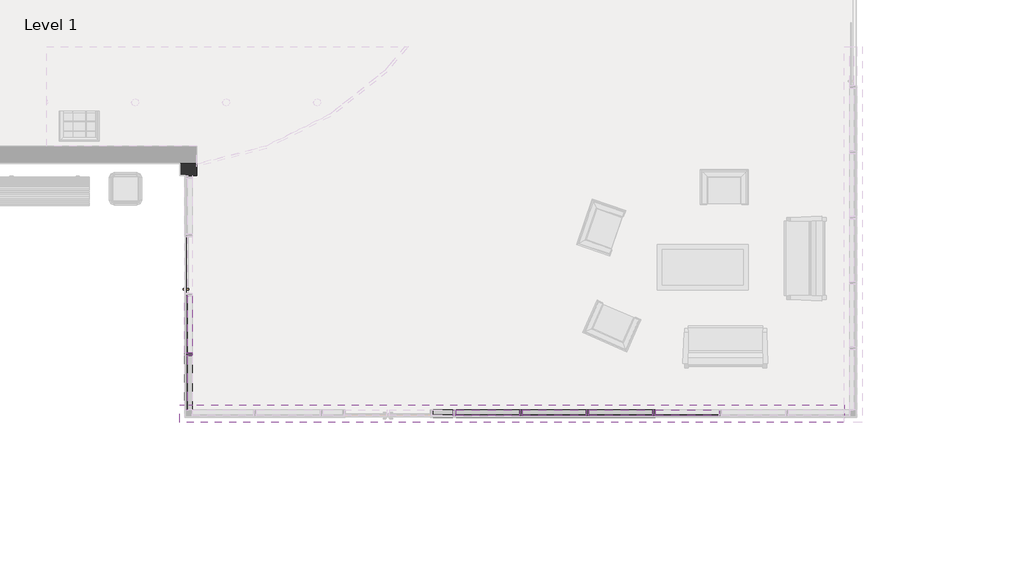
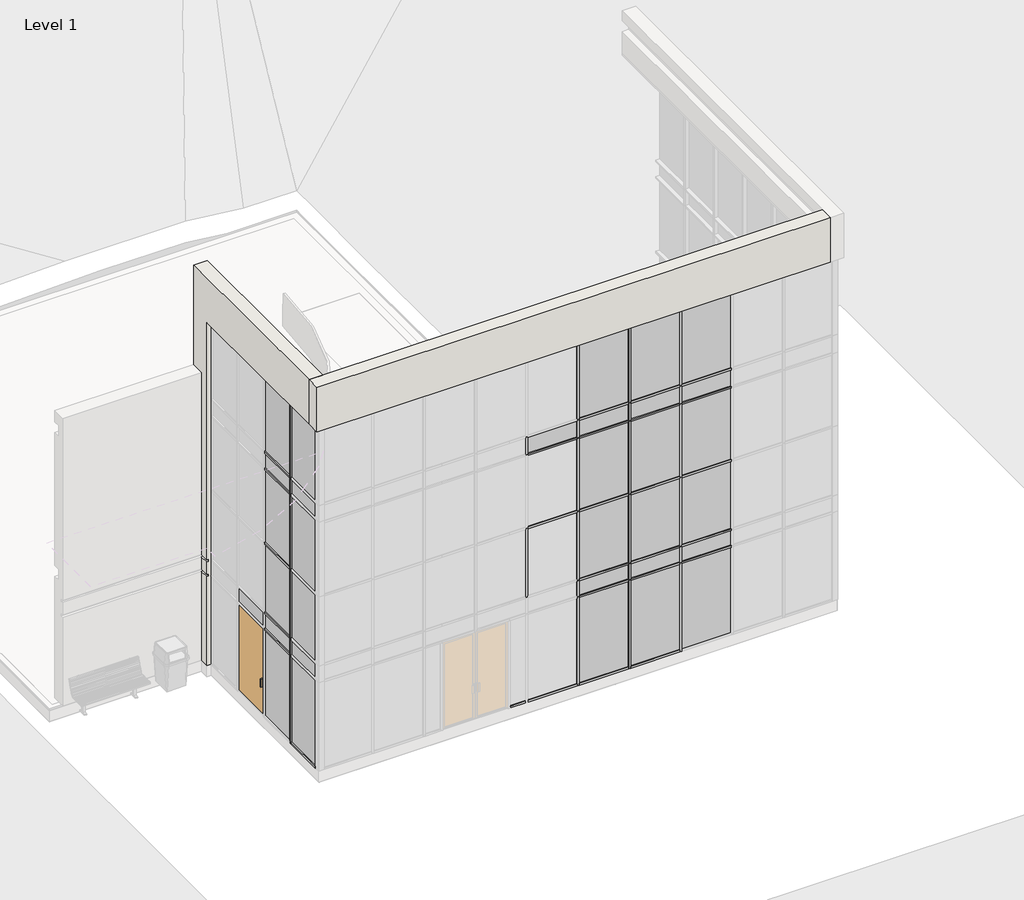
# One storey, part 2 of 6: 57 members, 32 plates, 2 walls, 1 door.
"""IFC4 building model written with IfcOpenShell, lengths in millimetres."""

from ifc_helpers import new_model, si_unit, frame, origin, place, context, project, spatial, circle_curve, faceted_brep, transform, mapped, element, save
from ifc_brep_helpers import plane_surface, cylinder_surface, advanced_brep
from components import curtain_wall_sgl_glass_curtain_wall_sgl_glass_863aa467, rectangular_mullion_50_x_150mm_9277cc62, rectangular_mullion_50_x_150mm_169d2d5c, rectangular_mullion_50_x_150mm_a98d9a75, rectangular_mullion_50_x_150mm_e5e1dcca, rectangular_mullion_50_x_150mm_47c0eb49, rectangular_mullion_50_x_150mm_2677f012, rectangular_mullion_50_x_150mm_55a91b40, rectangular_mullion_50_x_150mm_f9e96e8e, rectangular_mullion_50_x_150mm_1c0c8fcc, rectangular_mullion_50_x_150mm_5d9cdbe7, rectangular_mullion_50_x_150mm_6df5bc23, rectangular_mullion_50_x_150mm_c664ab49, rectangular_mullion_50_x_150mm_22f77a7a, system_panel_glazed_ba6276c6, system_panel_glazed_2755e160, system_panel_glazed_d3095f7c, system_panel_glazed_9a941065, system_panel_glazed_23c7b05c, system_panel_glazed_fb6efac8, system_panel_glazed_b5f236a0, system_panel_glazed_aa2b9898, system_panel_glazed_3706a5cf, system_panel_glazed_fdcf631f, system_panel_glazed_b287760b, system_panel_glazed_29643dd6, system_panel_glazed_af9e971b, system_panel_glazed_48c6fd0a, system_panel_glazed_b5705625, system_panel_glazed_869bd01b

model = new_model("IFC4")

# Units and contexts
model_context = context("Model", 3, world=origin())
ifc_project = project(units=[si_unit("LENGTHUNIT", "METRE", prefix="MILLI")], contexts=[model_context])

# Site, building, storey
site = spatial("IfcSite", under=ifc_project)
building = spatial("IfcBuilding", under=site)
storey = spatial("IfcBuildingStorey", under=building, Name="Level 1", Elevation=45720.0)

# Door
placement = place(None, origin())
curtain_wall_sgl_glass_curtain_wall_sgl_glass_shape = curtain_wall_sgl_glass_curtain_wall_sgl_glass_863aa467(model_context)
element("IfcDoor", 1, ObjectType="Curtain Wall Sgl Glass : Curtain Wall Sgl Glass", at=placement, inside=storey, context=model_context, shape_type="MappedRepresentation", body=[
    mapped(curtain_wall_sgl_glass_curtain_wall_sgl_glass_shape, transform((-10125.6188072, -5116.8998862, 45720.0), x_axis=(0.0, 1.0, 0.0), y_axis=(-1.0, 0.0, 0.0), z_axis=(0.0, 0.0, 1.0))),
])

# Members
rectangular_mullion_50_x_150mm_shape = rectangular_mullion_50_x_150mm_9277cc62(model_context)
element("IfcMember", 2, ObjectType="Rectangular Mullion : 50 x 150mm", at=placement, inside=storey, context=model_context, shape_type="MappedRepresentation", body=[
    mapped(rectangular_mullion_50_x_150mm_shape, transform((-10125.6188072, -6887.3623862, 55168.8), x_axis=(0.0, 0.0, 1.0), y_axis=(-1.0, 0.0, 0.0), z_axis=(0.0, -1.0, 0.0))),
])
rectangular_mullion_50_x_150mm_2_shape = rectangular_mullion_50_x_150mm_169d2d5c(model_context)
element("IfcMember", 3, ObjectType="Rectangular Mullion : 50 x 150mm", at=placement, inside=storey, context=model_context, shape_type="MappedRepresentation", body=[
    mapped(rectangular_mullion_50_x_150mm_2_shape, transform((-10125.6188072, -6887.3623862, 48158.4), x_axis=(0.0, 0.0, 1.0), y_axis=(-1.0, 0.0, 0.0), z_axis=(0.0, -1.0, 0.0))),
])
element("IfcMember", 4, ObjectType="Rectangular Mullion : 50 x 150mm", at=placement, inside=storey, context=model_context, shape_type="MappedRepresentation", body=[
    mapped(rectangular_mullion_50_x_150mm_2_shape, transform((-10125.6188072, -6887.3623862, 50520.0), x_axis=(0.0, 0.0, 1.0), y_axis=(-1.0, 0.0, 0.0), z_axis=(0.0, -1.0, 0.0))),
])
element("IfcMember", 5, ObjectType="Rectangular Mullion : 50 x 150mm", at=placement, inside=storey, context=model_context, shape_type="MappedRepresentation", body=[
    mapped(rectangular_mullion_50_x_150mm_2_shape, transform((-10125.6188072, -6887.3623862, 53035.2), x_axis=(0.0, 0.0, 1.0), y_axis=(-1.0, 0.0, 0.0), z_axis=(0.0, -1.0, 0.0))),
])
element("IfcMember", 6, ObjectType="Rectangular Mullion : 50 x 150mm", at=placement, inside=storey, context=model_context, shape_type="MappedRepresentation", body=[
    mapped(rectangular_mullion_50_x_150mm_2_shape, transform((-10125.6188072, -6887.3623862, 48615.6), x_axis=(0.0, 0.0, 1.0), y_axis=(-1.0, 0.0, 0.0), z_axis=(0.0, -1.0, 0.0))),
])
element("IfcMember", 7, ObjectType="Rectangular Mullion : 50 x 150mm", at=placement, inside=storey, context=model_context, shape_type="MappedRepresentation", body=[
    mapped(rectangular_mullion_50_x_150mm_2_shape, transform((-10125.6188072, -6887.3623862, 52578.0), x_axis=(0.0, 0.0, 1.0), y_axis=(-1.0, 0.0, 0.0), z_axis=(0.0, -1.0, 0.0))),
])
rectangular_mullion_50_x_150mm_3_shape = rectangular_mullion_50_x_150mm_a98d9a75(model_context)
element("IfcMember", 8, ObjectType="Rectangular Mullion : 50 x 150mm", at=placement, inside=storey, context=model_context, shape_type="MappedRepresentation", body=[
    mapped(rectangular_mullion_50_x_150mm_3_shape, transform((-10125.6188072, -6912.3623862, 45720.0), x_axis=(0.0, -1.0, 0.0), y_axis=(-1.0, 0.0, 0.0), z_axis=(0.0, 0.0, -1.0))),
])
rectangular_mullion_50_x_150mm_4_shape = rectangular_mullion_50_x_150mm_e5e1dcca(model_context)
element("IfcMember", 9, ObjectType="Rectangular Mullion : 50 x 150mm", at=placement, inside=storey, context=model_context, shape_type="MappedRepresentation", body=[
    mapped(rectangular_mullion_50_x_150mm_4_shape, transform((-10125.6188072, -6912.3623862, 48158.4), x_axis=(0.0, -1.0, 0.0), y_axis=(-1.0, 0.0, 0.0), z_axis=(0.0, 0.0, -1.0))),
])
element("IfcMember", 10, ObjectType="Rectangular Mullion : 50 x 150mm", at=placement, inside=storey, context=model_context, shape_type="MappedRepresentation", body=[
    mapped(rectangular_mullion_50_x_150mm_4_shape, transform((-10125.6188072, -6912.3623862, 52578.0), x_axis=(0.0, -1.0, 0.0), y_axis=(-1.0, 0.0, 0.0), z_axis=(0.0, 0.0, -1.0))),
])
rectangular_mullion_50_x_150mm_5_shape = rectangular_mullion_50_x_150mm_47c0eb49(model_context)
element("IfcMember", 11, ObjectType="Rectangular Mullion : 50 x 150mm", at=placement, inside=storey, context=model_context, shape_type="MappedRepresentation", body=[
    mapped(rectangular_mullion_50_x_150mm_5_shape, transform((-10125.6188072, -6912.3623862, 50520.0), x_axis=(0.0, -1.0, 0.0), y_axis=(-1.0, 0.0, 0.0), z_axis=(0.0, 0.0, -1.0))),
])
rectangular_mullion_50_x_150mm_6_shape = rectangular_mullion_50_x_150mm_2677f012(model_context)
element("IfcMember", 12, ObjectType="Rectangular Mullion : 50 x 150mm", at=placement, inside=storey, context=model_context, shape_type="MappedRepresentation", body=[
    mapped(rectangular_mullion_50_x_150mm_6_shape, transform((-10125.6188072, -6912.3623862, 53035.2), x_axis=(0.0, -1.0, 0.0), y_axis=(-1.0, 0.0, 0.0), z_axis=(0.0, 0.0, -1.0))),
])
rectangular_mullion_50_x_150mm_7_shape = rectangular_mullion_50_x_150mm_55a91b40(model_context)
element("IfcMember", 13, ObjectType="Rectangular Mullion : 50 x 150mm", at=placement, inside=storey, context=model_context, shape_type="MappedRepresentation", body=[
    mapped(rectangular_mullion_50_x_150mm_7_shape, transform((-10125.6188072, -6912.3623862, 48615.6), x_axis=(0.0, -1.0, 0.0), y_axis=(-1.0, 0.0, 0.0), z_axis=(0.0, 0.0, -1.0))),
])
rectangular_mullion_50_x_150mm_8_shape = rectangular_mullion_50_x_150mm_f9e96e8e(model_context)
element("IfcMember", 14, ObjectType="Rectangular Mullion : 50 x 150mm", at=placement, inside=storey, context=model_context, shape_type="MappedRepresentation", body=[
    mapped(rectangular_mullion_50_x_150mm_8_shape, transform((-10125.6188072, -6937.3623862, 45720.0), x_axis=(0.0, 0.0, -1.0), y_axis=(-1.0, 0.0, 0.0), z_axis=(0.0, 1.0, 0.0))),
])
element("IfcMember", 15, ObjectType="Rectangular Mullion : 50 x 150mm", at=placement, inside=storey, context=model_context, shape_type="MappedRepresentation", body=[
    mapped(rectangular_mullion_50_x_150mm_4_shape, transform((-2107.4738072, -8109.3373862, 48158.4), x_axis=(-1.0, 0.0, 0.0), y_axis=(0.0, 1.0, 0.0), z_axis=(0.0, 0.0, -1.0))),
])
element("IfcMember", 16, ObjectType="Rectangular Mullion : 50 x 150mm", at=placement, inside=storey, context=model_context, shape_type="MappedRepresentation", body=[
    mapped(rectangular_mullion_50_x_150mm_4_shape, transform((-771.1163072, -8109.3373862, 48158.4), x_axis=(-1.0, 0.0, 0.0), y_axis=(0.0, 1.0, 0.0), z_axis=(0.0, 0.0, -1.0))),
])
element("IfcMember", 17, ObjectType="Rectangular Mullion : 50 x 150mm", at=placement, inside=storey, context=model_context, shape_type="MappedRepresentation", body=[
    mapped(rectangular_mullion_50_x_150mm_4_shape, transform((-3443.8313072, -8109.3373862, 48158.4), x_axis=(-1.0, 0.0, 0.0), y_axis=(0.0, 1.0, 0.0), z_axis=(0.0, 0.0, -1.0))),
])
element("IfcMember", 18, ObjectType="Rectangular Mullion : 50 x 150mm", at=placement, inside=storey, context=model_context, shape_type="MappedRepresentation", body=[
    mapped(rectangular_mullion_50_x_150mm_7_shape, transform((-2107.4738072, -8109.3373862, 48615.6), x_axis=(-1.0, 0.0, 0.0), y_axis=(0.0, 1.0, 0.0), z_axis=(0.0, 0.0, -1.0))),
])
element("IfcMember", 19, ObjectType="Rectangular Mullion : 50 x 150mm", at=placement, inside=storey, context=model_context, shape_type="MappedRepresentation", body=[
    mapped(rectangular_mullion_50_x_150mm_7_shape, transform((-771.1163072, -8109.3373862, 48615.6), x_axis=(-1.0, 0.0, 0.0), y_axis=(0.0, 1.0, 0.0), z_axis=(0.0, 0.0, -1.0))),
])
element("IfcMember", 20, ObjectType="Rectangular Mullion : 50 x 150mm", at=placement, inside=storey, context=model_context, shape_type="MappedRepresentation", body=[
    mapped(rectangular_mullion_50_x_150mm_7_shape, transform((-3443.8313072, -8109.3373862, 48615.6), x_axis=(-1.0, 0.0, 0.0), y_axis=(0.0, 1.0, 0.0), z_axis=(0.0, 0.0, -1.0))),
])
element("IfcMember", 21, ObjectType="Rectangular Mullion : 50 x 150mm", at=placement, inside=storey, context=model_context, shape_type="MappedRepresentation", body=[
    mapped(rectangular_mullion_50_x_150mm_7_shape, transform((-4780.1888072, -8109.3373862, 48615.6), x_axis=(-1.0, 0.0, 0.0), y_axis=(0.0, 1.0, 0.0), z_axis=(0.0, 0.0, -1.0))),
])
element("IfcMember", 22, ObjectType="Rectangular Mullion : 50 x 150mm", at=placement, inside=storey, context=model_context, shape_type="MappedRepresentation", body=[
    mapped(rectangular_mullion_50_x_150mm_6_shape, transform((-3443.8313072, -8109.3373862, 53035.2), x_axis=(-1.0, 0.0, 0.0), y_axis=(0.0, 1.0, 0.0), z_axis=(0.0, 0.0, -1.0))),
])
element("IfcMember", 23, ObjectType="Rectangular Mullion : 50 x 150mm", at=placement, inside=storey, context=model_context, shape_type="MappedRepresentation", body=[
    mapped(rectangular_mullion_50_x_150mm_6_shape, transform((-2107.4738072, -8109.3373862, 53035.2), x_axis=(-1.0, 0.0, 0.0), y_axis=(0.0, 1.0, 0.0), z_axis=(0.0, 0.0, -1.0))),
])
element("IfcMember", 24, ObjectType="Rectangular Mullion : 50 x 150mm", at=placement, inside=storey, context=model_context, shape_type="MappedRepresentation", body=[
    mapped(rectangular_mullion_50_x_150mm_6_shape, transform((-771.1163072, -8109.3373862, 53035.2), x_axis=(-1.0, 0.0, 0.0), y_axis=(0.0, 1.0, 0.0), z_axis=(0.0, 0.0, -1.0))),
])
element("IfcMember", 25, ObjectType="Rectangular Mullion : 50 x 150mm", at=placement, inside=storey, context=model_context, shape_type="MappedRepresentation", body=[
    mapped(rectangular_mullion_50_x_150mm_3_shape, transform((-3443.8313072, -8109.3373862, 45720.0), x_axis=(-1.0, 0.0, 0.0), y_axis=(0.0, 1.0, 0.0), z_axis=(0.0, 0.0, -1.0))),
])
element("IfcMember", 26, ObjectType="Rectangular Mullion : 50 x 150mm", at=placement, inside=storey, context=model_context, shape_type="MappedRepresentation", body=[
    mapped(rectangular_mullion_50_x_150mm_3_shape, transform((-2107.4738072, -8109.3373862, 45720.0), x_axis=(-1.0, 0.0, 0.0), y_axis=(0.0, 1.0, 0.0), z_axis=(0.0, 0.0, -1.0))),
])
element("IfcMember", 27, ObjectType="Rectangular Mullion : 50 x 150mm", at=placement, inside=storey, context=model_context, shape_type="MappedRepresentation", body=[
    mapped(rectangular_mullion_50_x_150mm_3_shape, transform((-771.1163072, -8109.3373862, 45720.0), x_axis=(-1.0, 0.0, 0.0), y_axis=(0.0, 1.0, 0.0), z_axis=(0.0, 0.0, -1.0))),
])
rectangular_mullion_50_x_150mm_9_shape = rectangular_mullion_50_x_150mm_1c0c8fcc(model_context)
element("IfcMember", 28, ObjectType="Rectangular Mullion : 50 x 150mm", at=placement, inside=storey, context=model_context, shape_type="MappedRepresentation", body=[
    mapped(rectangular_mullion_50_x_150mm_9_shape, transform((-2082.4738072, -8109.3373862, 48615.6), x_axis=(0.0, 0.0, 1.0), y_axis=(0.0, 1.0, 0.0), z_axis=(-1.0, 0.0, 0.0))),
])
element("IfcMember", 29, ObjectType="Rectangular Mullion : 50 x 150mm", at=placement, inside=storey, context=model_context, shape_type="MappedRepresentation", body=[
    mapped(rectangular_mullion_50_x_150mm_9_shape, transform((-3418.8313072, -8109.3373862, 48615.6), x_axis=(0.0, 0.0, 1.0), y_axis=(0.0, 1.0, 0.0), z_axis=(-1.0, 0.0, 0.0))),
])
element("IfcMember", 30, ObjectType="Rectangular Mullion : 50 x 150mm", at=placement, inside=storey, context=model_context, shape_type="MappedRepresentation", body=[
    mapped(rectangular_mullion_50_x_150mm_9_shape, transform((-746.1163072, -8109.3373862, 48615.6), x_axis=(0.0, 0.0, 1.0), y_axis=(0.0, 1.0, 0.0), z_axis=(-1.0, 0.0, 0.0))),
])
element("IfcMember", 31, ObjectType="Rectangular Mullion : 50 x 150mm", at=placement, inside=storey, context=model_context, shape_type="MappedRepresentation", body=[
    mapped(rectangular_mullion_50_x_150mm_9_shape, transform((-2082.4738072, -8109.3373862, 48158.4), x_axis=(0.0, 0.0, 1.0), y_axis=(0.0, 1.0, 0.0), z_axis=(-1.0, 0.0, 0.0))),
])
element("IfcMember", 32, ObjectType="Rectangular Mullion : 50 x 150mm", at=placement, inside=storey, context=model_context, shape_type="MappedRepresentation", body=[
    mapped(rectangular_mullion_50_x_150mm_9_shape, transform((-3418.8313072, -8109.3373862, 48158.4), x_axis=(0.0, 0.0, 1.0), y_axis=(0.0, 1.0, 0.0), z_axis=(-1.0, 0.0, 0.0))),
])
element("IfcMember", 33, ObjectType="Rectangular Mullion : 50 x 150mm", at=placement, inside=storey, context=model_context, shape_type="MappedRepresentation", body=[
    mapped(rectangular_mullion_50_x_150mm_9_shape, transform((-746.1163072, -8109.3373862, 48158.4), x_axis=(0.0, 0.0, 1.0), y_axis=(0.0, 1.0, 0.0), z_axis=(-1.0, 0.0, 0.0))),
])
element("IfcMember", 34, ObjectType="Rectangular Mullion : 50 x 150mm", at=placement, inside=storey, context=model_context, shape_type="MappedRepresentation", body=[
    mapped(rectangular_mullion_50_x_150mm_9_shape, transform((-2082.4738072, -8109.3373862, 53035.2), x_axis=(0.0, 0.0, 1.0), y_axis=(0.0, 1.0, 0.0), z_axis=(-1.0, 0.0, 0.0))),
])
element("IfcMember", 35, ObjectType="Rectangular Mullion : 50 x 150mm", at=placement, inside=storey, context=model_context, shape_type="MappedRepresentation", body=[
    mapped(rectangular_mullion_50_x_150mm_9_shape, transform((-3418.8313072, -8109.3373862, 53035.2), x_axis=(0.0, 0.0, 1.0), y_axis=(0.0, 1.0, 0.0), z_axis=(-1.0, 0.0, 0.0))),
])
element("IfcMember", 36, ObjectType="Rectangular Mullion : 50 x 150mm", at=placement, inside=storey, context=model_context, shape_type="MappedRepresentation", body=[
    mapped(rectangular_mullion_50_x_150mm_9_shape, transform((-746.1163072, -8109.3373862, 53035.2), x_axis=(0.0, 0.0, 1.0), y_axis=(0.0, 1.0, 0.0), z_axis=(-1.0, 0.0, 0.0))),
])
element("IfcMember", 37, ObjectType="Rectangular Mullion : 50 x 150mm", at=placement, inside=storey, context=model_context, shape_type="MappedRepresentation", body=[
    mapped(rectangular_mullion_50_x_150mm_9_shape, transform((-746.1163072, -8109.3373862, 50520.0), x_axis=(0.0, 0.0, 1.0), y_axis=(0.0, 1.0, 0.0), z_axis=(-1.0, 0.0, 0.0))),
])
element("IfcMember", 38, ObjectType="Rectangular Mullion : 50 x 150mm", at=placement, inside=storey, context=model_context, shape_type="MappedRepresentation", body=[
    mapped(rectangular_mullion_50_x_150mm_9_shape, transform((-4755.1888072, -8109.3373862, 50520.0), x_axis=(0.0, 0.0, 1.0), y_axis=(0.0, 1.0, 0.0), z_axis=(-1.0, 0.0, 0.0))),
])
element("IfcMember", 39, ObjectType="Rectangular Mullion : 50 x 150mm", at=placement, inside=storey, context=model_context, shape_type="MappedRepresentation", body=[
    mapped(rectangular_mullion_50_x_150mm_9_shape, transform((-3418.8313072, -8109.3373862, 50520.0), x_axis=(0.0, 0.0, 1.0), y_axis=(0.0, 1.0, 0.0), z_axis=(-1.0, 0.0, 0.0))),
])
element("IfcMember", 40, ObjectType="Rectangular Mullion : 50 x 150mm", at=placement, inside=storey, context=model_context, shape_type="MappedRepresentation", body=[
    mapped(rectangular_mullion_50_x_150mm_9_shape, transform((-2082.4738072, -8109.3373862, 50520.0), x_axis=(0.0, 0.0, 1.0), y_axis=(0.0, 1.0, 0.0), z_axis=(-1.0, 0.0, 0.0))),
])
element("IfcMember", 41, ObjectType="Rectangular Mullion : 50 x 150mm", at=placement, inside=storey, context=model_context, shape_type="MappedRepresentation", body=[
    mapped(rectangular_mullion_50_x_150mm_9_shape, transform((-2082.4738072, -8109.3373862, 52535.2), x_axis=(0.0, 0.0, 1.0), y_axis=(0.0, 1.0, 0.0), z_axis=(-1.0, 0.0, 0.0))),
])
element("IfcMember", 42, ObjectType="Rectangular Mullion : 50 x 150mm", at=placement, inside=storey, context=model_context, shape_type="MappedRepresentation", body=[
    mapped(rectangular_mullion_50_x_150mm_9_shape, transform((-4755.1888072, -8109.3373862, 52535.2), x_axis=(0.0, 0.0, 1.0), y_axis=(0.0, 1.0, 0.0), z_axis=(-1.0, 0.0, 0.0))),
])
element("IfcMember", 43, ObjectType="Rectangular Mullion : 50 x 150mm", at=placement, inside=storey, context=model_context, shape_type="MappedRepresentation", body=[
    mapped(rectangular_mullion_50_x_150mm_9_shape, transform((-746.1163072, -8109.3373862, 52535.2), x_axis=(0.0, 0.0, 1.0), y_axis=(0.0, 1.0, 0.0), z_axis=(-1.0, 0.0, 0.0))),
])
element("IfcMember", 44, ObjectType="Rectangular Mullion : 50 x 150mm", at=placement, inside=storey, context=model_context, shape_type="MappedRepresentation", body=[
    mapped(rectangular_mullion_50_x_150mm_9_shape, transform((-3418.8313072, -8109.3373862, 52535.2), x_axis=(0.0, 0.0, 1.0), y_axis=(0.0, 1.0, 0.0), z_axis=(-1.0, 0.0, 0.0))),
])
rectangular_mullion_50_x_150mm_10_shape = rectangular_mullion_50_x_150mm_5d9cdbe7(model_context)
element("IfcMember", 45, ObjectType="Rectangular Mullion : 50 x 150mm", at=placement, inside=storey, context=model_context, shape_type="MappedRepresentation", body=[
    mapped(rectangular_mullion_50_x_150mm_10_shape, transform((-796.1163072, -8109.3373862, 45720.0), x_axis=(0.0, 0.0, -1.0), y_axis=(0.0, 1.0, 0.0), z_axis=(1.0, 0.0, 0.0))),
])
element("IfcMember", 46, ObjectType="Rectangular Mullion : 50 x 150mm", at=placement, inside=storey, context=model_context, shape_type="MappedRepresentation", body=[
    mapped(rectangular_mullion_50_x_150mm_10_shape, transform((-2132.4738072, -8109.3373862, 45720.0), x_axis=(0.0, 0.0, -1.0), y_axis=(0.0, 1.0, 0.0), z_axis=(1.0, 0.0, 0.0))),
])
element("IfcMember", 47, ObjectType="Rectangular Mullion : 50 x 150mm", at=placement, inside=storey, context=model_context, shape_type="MappedRepresentation", body=[
    mapped(rectangular_mullion_50_x_150mm_10_shape, transform((-3468.8313072, -8109.3373862, 45720.0), x_axis=(0.0, 0.0, -1.0), y_axis=(0.0, 1.0, 0.0), z_axis=(1.0, 0.0, 0.0))),
])
element("IfcMember", 48, ObjectType="Rectangular Mullion : 50 x 150mm", at=placement, inside=storey, context=model_context, shape_type="MappedRepresentation", body=[
    mapped(rectangular_mullion_50_x_150mm_10_shape, transform((-3418.8313072, -8109.3373862, 55168.8), x_axis=(0.0, 0.0, 1.0), y_axis=(0.0, 1.0, 0.0), z_axis=(-1.0, 0.0, 0.0))),
])
element("IfcMember", 49, ObjectType="Rectangular Mullion : 50 x 150mm", at=placement, inside=storey, context=model_context, shape_type="MappedRepresentation", body=[
    mapped(rectangular_mullion_50_x_150mm_10_shape, transform((-2082.4738072, -8109.3373862, 55168.8), x_axis=(0.0, 0.0, 1.0), y_axis=(0.0, 1.0, 0.0), z_axis=(-1.0, 0.0, 0.0))),
])
element("IfcMember", 50, ObjectType="Rectangular Mullion : 50 x 150mm", at=placement, inside=storey, context=model_context, shape_type="MappedRepresentation", body=[
    mapped(rectangular_mullion_50_x_150mm_10_shape, transform((-746.1163072, -8109.3373862, 55168.8), x_axis=(0.0, 0.0, 1.0), y_axis=(0.0, 1.0, 0.0), z_axis=(-1.0, 0.0, 0.0))),
])
rectangular_mullion_50_x_150mm_11_shape = rectangular_mullion_50_x_150mm_6df5bc23(model_context)
element("IfcMember", 51, ObjectType="Rectangular Mullion : 50 x 150mm", at=placement, inside=storey, context=model_context, shape_type="MappedRepresentation", body=[
    mapped(rectangular_mullion_50_x_150mm_11_shape, transform((-4805.1888072, -8109.3373862, 45720.0), x_axis=(0.0, 0.0, -1.0), y_axis=(0.0, 1.0, 0.0), z_axis=(1.0, 0.0, 0.0))),
])
rectangular_mullion_50_x_150mm_12_shape = rectangular_mullion_50_x_150mm_c664ab49(model_context)
element("IfcMember", 52, ObjectType="Rectangular Mullion : 50 x 150mm", at=placement, inside=storey, context=model_context, shape_type="MappedRepresentation", body=[
    mapped(rectangular_mullion_50_x_150mm_12_shape, transform((-2107.4738072, -8109.3373862, 50520.0), x_axis=(-1.0, 0.0, 0.0), y_axis=(0.0, 1.0, 0.0), z_axis=(0.0, 0.0, -1.0))),
])
element("IfcMember", 53, ObjectType="Rectangular Mullion : 50 x 150mm", at=placement, inside=storey, context=model_context, shape_type="MappedRepresentation", body=[
    mapped(rectangular_mullion_50_x_150mm_12_shape, transform((-771.1163072, -8109.3373862, 50520.0), x_axis=(-1.0, 0.0, 0.0), y_axis=(0.0, 1.0, 0.0), z_axis=(0.0, 0.0, -1.0))),
])
element("IfcMember", 54, ObjectType="Rectangular Mullion : 50 x 150mm", at=placement, inside=storey, context=model_context, shape_type="MappedRepresentation", body=[
    mapped(rectangular_mullion_50_x_150mm_12_shape, transform((-3443.8313072, -8109.3373862, 50520.0), x_axis=(-1.0, 0.0, 0.0), y_axis=(0.0, 1.0, 0.0), z_axis=(0.0, 0.0, -1.0))),
])
rectangular_mullion_50_x_150mm_13_shape = rectangular_mullion_50_x_150mm_22f77a7a(model_context)
element("IfcMember", 55, ObjectType="Rectangular Mullion : 50 x 150mm", at=placement, inside=storey, context=model_context, shape_type="MappedRepresentation", body=[
    mapped(rectangular_mullion_50_x_150mm_13_shape, transform((-2107.4738072, -8109.3373862, 52535.2), x_axis=(-1.0, 0.0, 0.0), y_axis=(0.0, 1.0, 0.0), z_axis=(0.0, 0.0, -1.0))),
])
element("IfcMember", 56, ObjectType="Rectangular Mullion : 50 x 150mm", at=placement, inside=storey, context=model_context, shape_type="MappedRepresentation", body=[
    mapped(rectangular_mullion_50_x_150mm_13_shape, transform((-771.1163072, -8109.3373862, 52535.2), x_axis=(-1.0, 0.0, 0.0), y_axis=(0.0, 1.0, 0.0), z_axis=(0.0, 0.0, -1.0))),
])
element("IfcMember", 57, ObjectType="Rectangular Mullion : 50 x 150mm", at=placement, inside=storey, context=model_context, shape_type="MappedRepresentation", body=[
    mapped(rectangular_mullion_50_x_150mm_13_shape, transform((-3443.8313072, -8109.3373862, 52535.2), x_axis=(-1.0, 0.0, 0.0), y_axis=(0.0, 1.0, 0.0), z_axis=(0.0, 0.0, -1.0))),
])
element("IfcMember", 58, ObjectType="Rectangular Mullion : 50 x 150mm", at=placement, inside=storey, context=model_context, shape_type="MappedRepresentation", body=[
    mapped(rectangular_mullion_50_x_150mm_13_shape, transform((-4780.1888072, -8109.3373862, 52535.2), x_axis=(-1.0, 0.0, 0.0), y_axis=(0.0, 1.0, 0.0), z_axis=(0.0, 0.0, -1.0))),
])

# Plates
system_panel_glazed_shape = system_panel_glazed_ba6276c6(model_context)
element("IfcPlate", 59, ObjectType="System Panel : Glazed", at=placement, inside=storey, context=model_context, shape_type="MappedRepresentation", body=[
    mapped(system_panel_glazed_shape, transform((-10125.6188072, -6313.8748862, 45770.0), x_axis=(0.0, -1.0, 0.0), y_axis=(1.0, 0.0, 0.0), z_axis=(0.0, 0.0, 1.0))),
])
system_panel_glazed_2_shape = system_panel_glazed_2755e160(model_context)
element("IfcPlate", 60, ObjectType="System Panel : Glazed", at=placement, inside=storey, context=model_context, shape_type="MappedRepresentation", body=[
    mapped(system_panel_glazed_2_shape, transform((-10125.6188072, -5116.8998862, 48183.4), x_axis=(0.0, -1.0, 0.0), y_axis=(1.0, 0.0, 0.0), z_axis=(0.0, 0.0, 1.0))),
])
element("IfcPlate", 61, ObjectType="System Panel : Glazed", at=placement, inside=storey, context=model_context, shape_type="MappedRepresentation", body=[
    mapped(system_panel_glazed_2_shape, transform((-10125.6188072, -6313.8748862, 48183.4), x_axis=(0.0, -1.0, 0.0), y_axis=(1.0, 0.0, 0.0), z_axis=(0.0, 0.0, 1.0))),
])
element("IfcPlate", 62, ObjectType="System Panel : Glazed", at=placement, inside=storey, context=model_context, shape_type="MappedRepresentation", body=[
    mapped(system_panel_glazed_2_shape, transform((-10125.6188072, -6313.8748862, 52603.0), x_axis=(0.0, -1.0, 0.0), y_axis=(1.0, 0.0, 0.0), z_axis=(0.0, 0.0, 1.0))),
])
system_panel_glazed_3_shape = system_panel_glazed_d3095f7c(model_context)
element("IfcPlate", 63, ObjectType="System Panel : Glazed", at=placement, inside=storey, context=model_context, shape_type="MappedRepresentation", body=[
    mapped(system_panel_glazed_3_shape, transform((-10125.6188072, -6313.8748862, 50545.0), x_axis=(0.0, -1.0, 0.0), y_axis=(1.0, 0.0, 0.0), z_axis=(0.0, 0.0, 1.0))),
])
system_panel_glazed_4_shape = system_panel_glazed_9a941065(model_context)
element("IfcPlate", 64, ObjectType="System Panel : Glazed", at=placement, inside=storey, context=model_context, shape_type="MappedRepresentation", body=[
    mapped(system_panel_glazed_4_shape, transform((-10125.6188072, -6313.8748862, 53060.2), x_axis=(0.0, -1.0, 0.0), y_axis=(1.0, 0.0, 0.0), z_axis=(0.0, 0.0, 1.0))),
])
system_panel_glazed_5_shape = system_panel_glazed_23c7b05c(model_context)
element("IfcPlate", 65, ObjectType="System Panel : Glazed", at=placement, inside=storey, context=model_context, shape_type="MappedRepresentation", body=[
    mapped(system_panel_glazed_5_shape, transform((-10125.6188072, -6313.8748862, 48640.6), x_axis=(0.0, -1.0, 0.0), y_axis=(1.0, 0.0, 0.0), z_axis=(0.0, 0.0, 1.0))),
])
system_panel_glazed_6_shape = system_panel_glazed_fb6efac8(model_context)
element("IfcPlate", 66, ObjectType="System Panel : Glazed", at=placement, inside=storey, context=model_context, shape_type="MappedRepresentation", body=[
    mapped(system_panel_glazed_6_shape, transform((-10125.6188072, -7485.8498862, 48183.4), x_axis=(0.0, -1.0, 0.0), y_axis=(1.0, 0.0, 0.0), z_axis=(0.0, 0.0, 1.0))),
])
element("IfcPlate", 67, ObjectType="System Panel : Glazed", at=placement, inside=storey, context=model_context, shape_type="MappedRepresentation", body=[
    mapped(system_panel_glazed_6_shape, transform((-10125.6188072, -7485.8498862, 52603.0), x_axis=(0.0, -1.0, 0.0), y_axis=(1.0, 0.0, 0.0), z_axis=(0.0, 0.0, 1.0))),
])
system_panel_glazed_7_shape = system_panel_glazed_b5f236a0(model_context)
element("IfcPlate", 68, ObjectType="System Panel : Glazed", at=placement, inside=storey, context=model_context, shape_type="MappedRepresentation", body=[
    mapped(system_panel_glazed_7_shape, transform((-10125.6188072, -7485.8498862, 50545.0), x_axis=(0.0, -1.0, 0.0), y_axis=(1.0, 0.0, 0.0), z_axis=(0.0, 0.0, 1.0))),
])
system_panel_glazed_8_shape = system_panel_glazed_aa2b9898(model_context)
element("IfcPlate", 69, ObjectType="System Panel : Glazed", at=placement, inside=storey, context=model_context, shape_type="MappedRepresentation", body=[
    mapped(system_panel_glazed_8_shape, transform((-10125.6188072, -7485.8498862, 53060.2), x_axis=(0.0, -1.0, 0.0), y_axis=(1.0, 0.0, 0.0), z_axis=(0.0, 0.0, 1.0))),
])
system_panel_glazed_9_shape = system_panel_glazed_3706a5cf(model_context)
element("IfcPlate", 70, ObjectType="System Panel : Glazed", at=placement, inside=storey, context=model_context, shape_type="MappedRepresentation", body=[
    mapped(system_panel_glazed_9_shape, transform((-10125.6188072, -7485.8498862, 48640.6), x_axis=(0.0, -1.0, 0.0), y_axis=(1.0, 0.0, 0.0), z_axis=(0.0, 0.0, 1.0))),
])
system_panel_glazed_10_shape = system_panel_glazed_fdcf631f(model_context)
element("IfcPlate", 71, ObjectType="System Panel : Glazed", at=placement, inside=storey, context=model_context, shape_type="MappedRepresentation", body=[
    mapped(system_panel_glazed_10_shape, transform((-10125.6188072, -7485.8498862, 45770.0), x_axis=(0.0, -1.0, 0.0), y_axis=(1.0, 0.0, 0.0), z_axis=(0.0, 0.0, 1.0))),
])
system_panel_glazed_11_shape = system_panel_glazed_b287760b(model_context)
element("IfcPlate", 72, ObjectType="System Panel : Glazed", at=placement, inside=storey, context=model_context, shape_type="MappedRepresentation", body=[
    mapped(system_panel_glazed_11_shape, transform((-102.9375572, -8109.3373862, 45770.0), x_axis=(-1.0, 0.0, 0.0), y_axis=(0.0, -1.0, 0.0), z_axis=(0.0, 0.0, 1.0))),
])
element("IfcPlate", 73, ObjectType="System Panel : Glazed", at=placement, inside=storey, context=model_context, shape_type="MappedRepresentation", body=[
    mapped(system_panel_glazed_11_shape, transform((-2775.6525572, -8109.3373862, 45770.0), x_axis=(-1.0, 0.0, 0.0), y_axis=(0.0, -1.0, 0.0), z_axis=(0.0, 0.0, 1.0))),
])
element("IfcPlate", 74, ObjectType="System Panel : Glazed", at=placement, inside=storey, context=model_context, shape_type="MappedRepresentation", body=[
    mapped(system_panel_glazed_11_shape, transform((-1439.2950572, -8109.3373862, 45770.0), x_axis=(-1.0, 0.0, 0.0), y_axis=(0.0, -1.0, 0.0), z_axis=(0.0, 0.0, 1.0))),
])
system_panel_glazed_12_shape = system_panel_glazed_29643dd6(model_context)
element("IfcPlate", 75, ObjectType="System Panel : Glazed", at=placement, inside=storey, context=model_context, shape_type="MappedRepresentation", body=[
    mapped(system_panel_glazed_12_shape, transform((-102.9375572, -8109.3373862, 48183.4), x_axis=(-1.0, 0.0, 0.0), y_axis=(0.0, -1.0, 0.0), z_axis=(0.0, 0.0, 1.0))),
])
element("IfcPlate", 76, ObjectType="System Panel : Glazed", at=placement, inside=storey, context=model_context, shape_type="MappedRepresentation", body=[
    mapped(system_panel_glazed_12_shape, transform((-2775.6525572, -8109.3373862, 48183.4), x_axis=(-1.0, 0.0, 0.0), y_axis=(0.0, -1.0, 0.0), z_axis=(0.0, 0.0, 1.0))),
])
element("IfcPlate", 77, ObjectType="System Panel : Glazed", at=placement, inside=storey, context=model_context, shape_type="MappedRepresentation", body=[
    mapped(system_panel_glazed_12_shape, transform((-1439.2950572, -8109.3373862, 48183.4), x_axis=(-1.0, 0.0, 0.0), y_axis=(0.0, -1.0, 0.0), z_axis=(0.0, 0.0, 1.0))),
])
system_panel_glazed_13_shape = system_panel_glazed_af9e971b(model_context)
element("IfcPlate", 78, ObjectType="System Panel : Glazed", at=placement, inside=storey, context=model_context, shape_type="MappedRepresentation", body=[
    mapped(system_panel_glazed_13_shape, transform((-102.9375572, -8109.3373862, 48640.6), x_axis=(-1.0, 0.0, 0.0), y_axis=(0.0, -1.0, 0.0), z_axis=(0.0, 0.0, 1.0))),
])
element("IfcPlate", 79, ObjectType="System Panel : Glazed", at=placement, inside=storey, context=model_context, shape_type="MappedRepresentation", body=[
    mapped(system_panel_glazed_13_shape, transform((-2775.6525572, -8109.3373862, 48640.6), x_axis=(-1.0, 0.0, 0.0), y_axis=(0.0, -1.0, 0.0), z_axis=(0.0, 0.0, 1.0))),
])
element("IfcPlate", 80, ObjectType="System Panel : Glazed", at=placement, inside=storey, context=model_context, shape_type="MappedRepresentation", body=[
    mapped(system_panel_glazed_13_shape, transform((-1439.2950572, -8109.3373862, 48640.6), x_axis=(-1.0, 0.0, 0.0), y_axis=(0.0, -1.0, 0.0), z_axis=(0.0, 0.0, 1.0))),
])
system_panel_glazed_14_shape = system_panel_glazed_48c6fd0a(model_context)
element("IfcPlate", 81, ObjectType="System Panel : Glazed", at=placement, inside=storey, context=model_context, shape_type="MappedRepresentation", body=[
    mapped(system_panel_glazed_14_shape, transform((-102.9375572, -8109.3373862, 53060.2), x_axis=(-1.0, 0.0, 0.0), y_axis=(0.0, -1.0, 0.0), z_axis=(0.0, 0.0, 1.0))),
])
element("IfcPlate", 82, ObjectType="System Panel : Glazed", at=placement, inside=storey, context=model_context, shape_type="MappedRepresentation", body=[
    mapped(system_panel_glazed_14_shape, transform((-2775.6525572, -8109.3373862, 53060.2), x_axis=(-1.0, 0.0, 0.0), y_axis=(0.0, -1.0, 0.0), z_axis=(0.0, 0.0, 1.0))),
])
element("IfcPlate", 83, ObjectType="System Panel : Glazed", at=placement, inside=storey, context=model_context, shape_type="MappedRepresentation", body=[
    mapped(system_panel_glazed_14_shape, transform((-1439.2950572, -8109.3373862, 53060.2), x_axis=(-1.0, 0.0, 0.0), y_axis=(0.0, -1.0, 0.0), z_axis=(0.0, 0.0, 1.0))),
])
system_panel_glazed_15_shape = system_panel_glazed_b5705625(model_context)
element("IfcPlate", 84, ObjectType="System Panel : Glazed", at=placement, inside=storey, context=model_context, shape_type="MappedRepresentation", body=[
    mapped(system_panel_glazed_15_shape, transform((-102.9375572, -8109.3373862, 50545.0), x_axis=(-1.0, 0.0, 0.0), y_axis=(0.0, -1.0, 0.0), z_axis=(0.0, 0.0, 1.0))),
])
element("IfcPlate", 85, ObjectType="System Panel : Glazed", at=placement, inside=storey, context=model_context, shape_type="MappedRepresentation", body=[
    mapped(system_panel_glazed_15_shape, transform((-2775.6525572, -8109.3373862, 50545.0), x_axis=(-1.0, 0.0, 0.0), y_axis=(0.0, -1.0, 0.0), z_axis=(0.0, 0.0, 1.0))),
])
element("IfcPlate", 86, ObjectType="System Panel : Glazed", at=placement, inside=storey, context=model_context, shape_type="MappedRepresentation", body=[
    mapped(system_panel_glazed_15_shape, transform((-1439.2950572, -8109.3373862, 50545.0), x_axis=(-1.0, 0.0, 0.0), y_axis=(0.0, -1.0, 0.0), z_axis=(0.0, 0.0, 1.0))),
])
system_panel_glazed_16_shape = system_panel_glazed_869bd01b(model_context)
element("IfcPlate", 87, ObjectType="System Panel : Glazed", at=placement, inside=storey, context=model_context, shape_type="MappedRepresentation", body=[
    mapped(system_panel_glazed_16_shape, transform((-102.9375572, -8109.3373862, 52560.2), x_axis=(-1.0, 0.0, 0.0), y_axis=(0.0, -1.0, 0.0), z_axis=(0.0, 0.0, 1.0))),
])
element("IfcPlate", 88, ObjectType="System Panel : Glazed", at=placement, inside=storey, context=model_context, shape_type="MappedRepresentation", body=[
    mapped(system_panel_glazed_16_shape, transform((-1439.2950572, -8109.3373862, 52560.2), x_axis=(-1.0, 0.0, 0.0), y_axis=(0.0, -1.0, 0.0), z_axis=(0.0, 0.0, 1.0))),
])
element("IfcPlate", 89, ObjectType="System Panel : Glazed", at=placement, inside=storey, context=model_context, shape_type="MappedRepresentation", body=[
    mapped(system_panel_glazed_16_shape, transform((-2775.6525572, -8109.3373862, 52560.2), x_axis=(-1.0, 0.0, 0.0), y_axis=(0.0, -1.0, 0.0), z_axis=(0.0, 0.0, 1.0))),
])
element("IfcPlate", 90, ObjectType="System Panel : Glazed", at=placement, inside=storey, context=model_context, shape_type="MappedRepresentation", body=[
    mapped(system_panel_glazed_16_shape, transform((-4112.0100572, -8109.3373862, 52560.2), x_axis=(-1.0, 0.0, 0.0), y_axis=(0.0, -1.0, 0.0), z_axis=(0.0, 0.0, 1.0))),
])

# Walls
element("IfcWall", 91, ObjectType="Exterior - Brick on Mtl. Stud", at=placement, inside=storey, context=model_context, shape_type="Brep", body=[
    faceted_brep([(3061.2686928, -7932.6498862, 55168.8), (-9951.8313072, -7932.6498862, 55168.8), (-10301.8313072, -7932.6498862, 55168.8), (-10301.8313072, -7932.6498862, 56388.0), (-9951.8313072, -7932.6498862, 56388.0), (3061.2686928, -7932.6498862, 56388.0), (3061.2686928, -7932.6498862, 56116.5), (-9951.8313072, -7932.6498862, 56116.5), (-10116.8313072, -7932.6498862, 56116.5), (-10116.8313072, -7932.6498862, 55816.5), (-9951.8313072, -7932.6498862, 55816.5), (3061.2686928, -7932.6498862, 55816.5), (-10301.8313072, -8285.5498862, 55168.8), (3061.2686928, -8285.5498862, 55168.8), (3061.2686928, -8285.5498862, 56388.0), (-10301.8313072, -8285.5498862, 56388.0), (3061.2686928, -7933.1248862, 55168.8), (3061.2686928, -8100.5498862, 55816.5), (3061.2686928, -8100.5498862, 56116.5), (-10116.8313072, -8100.5498862, 56116.5), (-10116.8313072, -8100.5498862, 55816.5)], [[[0, 1, 2, 3, 4, 5, 6, 7, 8, 9, 10, 11]], [[12, 13, 14, 15]], [[2, 1, 0, 16, 13, 12]], [[5, 4, 3, 15, 14]], [[3, 2, 12, 15]], [[5, 14, 13, 16, 0, 11, 17, 18, 6]], [[19, 20, 9, 8]], [[20, 19, 18, 17]], [[20, 17, 11, 10, 9]], [[18, 19, 8, 7, 6]]]),
])
element("IfcWall", 92, ObjectType="Exterior - Brick on Mtl. Stud w/ Soldier Course", at=placement, inside=storey, context=model_context, shape_type="AdvancedBrep", body=[
    advanced_brep(
    [(-9951.8313072, -2722.9498862, 56388.0), (-9951.8313072, -3075.8498862, 56388.0), (-9951.8313072, -7932.6498862, 56388.0), (-9951.8313072, -7932.6498862, 56116.5), (-9951.8313072, -3075.8498862, 56116.5), (-9951.8313072, -2904.8791149, 56116.5), (-9951.8313072, -2904.8791149, 55816.5), (-9951.8313072, -3075.8498862, 55816.5), (-9951.8313072, -7932.6498862, 55816.5), (-9951.8313072, -7932.6498862, 55225.8), (-9951.8313072, -7932.6498862, 55168.8), (-9951.8313072, -3321.4373862, 55168.8), (-9951.8313072, -3321.4373862, 45720.0), (-9951.8313072, -3075.3748862, 45720.0), (-9951.8313072, -3075.3748862, 49077.6), (-9951.8313072, -3075.3748862, 49377.6), (-9951.8313072, -3075.3748862, 53644.8), (-9951.8313072, -2725.3748862, 53644.8), (-9951.8313072, -2722.9498862, 53644.8), (-10301.8313072, -7932.6498862, 56388.0), (-10301.8313072, -2722.9498862, 56388.0), (-10301.8313072, -2722.9498862, 53644.8), (-10301.8313072, -3075.3748862, 53644.8), (-10301.8313072, -3075.3748862, 48633.5), (-10301.8313072, -3321.4373862, 48633.5), (-10301.8313072, -3321.4373862, 55168.8), (-10301.8313072, -7932.6498862, 55168.8), (-10301.8313072, -3075.3748862, 45720.0), (-10301.8313072, -3321.4373862, 45720.0), (-10301.8313072, -3321.4373862, 48170.0), (-10301.8313072, -3075.3748862, 48170.0), (-10301.8313072, -3321.4373862, 48570.0), (-10301.8313072, -3075.3748862, 48570.0), (-10301.8313072, -3075.3748862, 48233.5), (-10301.8313072, -3321.4373862, 48233.5), (-10251.0313072, -3321.4373862, 48633.5), (-10251.0313072, -3321.4373862, 48570.0), (-10251.0313072, -3321.4373862, 48233.5), (-10251.0313072, -3321.4373862, 48170.0), (-10116.8313072, -7932.6498862, 55816.5), (-10116.8313072, -7932.6498862, 56116.5), (-10116.8313072, -2915.4733276, 56116.5), (-10116.8313072, -2915.4733276, 55816.5), (-10023.2212623, -2915.4733276, 55816.5), (-10023.2212623, -2915.4733276, 56116.5), (-10251.0313072, -3075.3748862, 48570.0), (-10251.0313072, -3075.3748862, 48633.5), (-10251.0313072, -3075.3748862, 48170.0), (-10251.0313072, -3075.3748862, 48233.5)],
    [
        (0, 1),
        (1, 2),
        (2, 3),
        (3, 4),
        (4, 5),
        (5, 6),
        (6, 7),
        (7, 8),
        (8, 9),
        (9, 10),
        (10, 11),
        (11, 12),
        (12, 13),
        (13, 14),
        (14, 15),
        (15, 16),
        (16, 17),
        (17, 18),
        (18, 0),
        (19, 20),
        (20, 21),
        (21, 22),
        (22, 23),
        (23, 24),
        (24, 25),
        (25, 26),
        (26, 19),
        (27, 28),
        (28, 29),
        (29, 30),
        (30, 27),
        (31, 32),
        (32, 33),
        (33, 34),
        (34, 31),
        (12, 28),
        (27, 13),
        (0, 20),
        (19, 2),
        (11, 25),
        (24, 35),
        (35, 36),
        (36, 31),
        (34, 37),
        (37, 38),
        (38, 29),
        (10, 26),
        (8, 39),
        (39, 40),
        (40, 3),
        (41, 40),
        (39, 42),
        (42, 41),
        (6, 43, circle_curve(frame((-10969.3383655, 3705.8434908, 55816.5), z_axis=(0.0, 0.0, -1.0), x_axis=(1.0, 0.0, 0.0)), 6688.570399)),
        (43, 42),
        (41, 44),
        (44, 5, circle_curve(frame((-10969.3383655, 3705.8434908, 56116.5), z_axis=(0.0, 0.0, 1.0), x_axis=(1.0, 0.0, 0.0)), 6688.570399)),
        (43, 44),
        (45, 36),
        (35, 46),
        (46, 45),
        (23, 46),
        (45, 32),
        (47, 38),
        (37, 48),
        (48, 47),
        (33, 48),
        (47, 30),
        (16, 22),
        (21, 18),
    ],
    [
        plane_surface(frame((-9951.8313072, -8228.3998862, 45720.0), z_axis=(1.0, 0.0, 0.0), x_axis=(0.0, 1.0, 0.0))),
        plane_surface(frame((-10301.8313072, -8228.3998862, 45720.0), z_axis=(-1.0, 0.0, 0.0), x_axis=(0.0, -1.0, 0.0))),
        plane_surface(frame((-9951.8313072, -8109.0998862, 45720.0), z_axis=(0.0, 0.0, -1.0), x_axis=(-1.0, 0.0, 0.0))),
        plane_surface(frame((-9951.8313072, -2899.3998862, 56388.0), z_axis=(0.0, 0.0, 1.0), x_axis=(-1.0, 0.0, 0.0))),
        plane_surface(frame((-9799.4313072, -3321.4373862, 45720.0), z_axis=(0.0, -1.0, 0.0), x_axis=(-1.0, 0.0, 0.0))),
        plane_surface(frame((-9799.4313072, -3321.4373862, 55168.8), z_axis=(0.0, 0.0, -1.0), x_axis=(-1.0, 0.0, 0.0))),
        plane_surface(frame((2537.8686928, -7932.6498862, 55168.8), z_axis=(0.0, -1.0, 0.0), x_axis=(-1.0, 0.0, 0.0))),
        plane_surface(frame((-10116.8313072, -2915.4733276, 10058.4), z_axis=(1.0, 0.0, 0.0), x_axis=(0.0, -1.0, 0.0))),
        plane_surface(frame((-10116.8313072, -8100.5498862, 55816.5), z_axis=(0.0, 0.0, 1.0), x_axis=(1.0, 0.0, 0.0))),
        plane_surface(frame((-10116.8313072, -8100.5498862, 56116.5), z_axis=(0.0, 0.0, -1.0), x_axis=(1.0, 0.0, 0.0))),
        plane_surface(frame((-10023.2212623, -2915.4733276, 10058.4), z_axis=(0.0, -1.0, 0.0), x_axis=(-1.0, 0.0, 0.0))),
        cylinder_surface(frame((-10969.3383655, 3705.8434908, 10058.4), z_axis=(0.0, 0.0, 1.0), x_axis=(1.0, 0.0, 0.0)), 6688.570399),
        plane_surface(frame((-10251.0313072, -3321.4373862, 48570.0), z_axis=(-1.0, 0.0, 0.0), x_axis=(0.0, 1.0, 0.0))),
        plane_surface(frame((-10251.0313072, -3321.4373862, 48633.5), z_axis=(0.0, 0.0, -1.0), x_axis=(0.0, 1.0, 0.0))),
        plane_surface(frame((-10301.8313072, -3321.4373862, 48570.0), z_axis=(0.0, 0.0, 1.0), x_axis=(0.0, 1.0, 0.0))),
        plane_surface(frame((-10251.0313072, -3321.4373862, 48170.0), z_axis=(-1.0, 0.0, 0.0), x_axis=(0.0, 1.0, 0.0))),
        plane_surface(frame((-10251.0313072, -3321.4373862, 48233.5), z_axis=(0.0, 0.0, -1.0), x_axis=(0.0, 1.0, 0.0))),
        plane_surface(frame((-10301.8313072, -3321.4373862, 48170.0), z_axis=(0.0, 0.0, 1.0), x_axis=(0.0, 1.0, 0.0))),
        plane_surface(frame((-9951.8313072, -2899.3998862, 53644.8), z_axis=(0.0, 0.0, -1.0), x_axis=(1.0, 0.0, 0.0))),
        plane_surface(frame((-10117.6813072, -3075.3748862, 45720.0), z_axis=(0.0, 1.0, 0.0), x_axis=(1.0, 0.0, 0.0))),
        plane_surface(frame((-9915.2280922, -2722.9498862, 52425.6), z_axis=(0.0, 1.0, 0.0), x_axis=(-1.0, 0.0, 0.0))),
    ],
    [
        (0, [[1, 2, 3, 4, 5, 6, 7, 8, 9, 10, 11, 12, 13, 14, 15, 16, 17, 18, 19]]),
        (1, [[20, 21, 22, 23, 24, 25, 26, 27]]),
        (1, [[28, 29, 30, 31]]),
        (1, [[32, 33, 34, 35]]),
        (2, [[-13, 36, -28, 37]]),
        (3, [[-2, -1, 38, -20, 39]]),
        (4, [[40, -25, 41, 42, 43, -35, 44, 45, 46, -29, -36, -12]]),
        (5, [[-40, -11, 47, -26]]),
        (6, [[-39, -27, -47, -10, -9, 48, 49, 50, -3]]),
        (7, [[51, -49, 52, 53]]),
        (8, [[-52, -48, -8, -7, 54, 55]]),
        (9, [[-51, 56, 57, -5, -4, -50]]),
        (10, [[-53, -55, 58, -56]]),
        (11, [[-58, -54, -6, -57]]),
        (12, [[59, -42, 60, 61]]),
        (13, [[-60, -41, -24, 62]]),
        (14, [[-59, 63, -32, -43]]),
        (15, [[64, -45, 65, 66]]),
        (16, [[-65, -44, -34, 67]]),
        (17, [[-64, 68, -30, -46]]),
        (18, [[-18, -17, 69, -22, 70]]),
        (19, [[-37, -31, -68, -66, -67, -33, -63, -61, -62, -23, -69, -16, -15, -14]]),
        (20, [[-38, -19, -70, -21]]),
    ],
),
])

save(model, "model.ifc")
